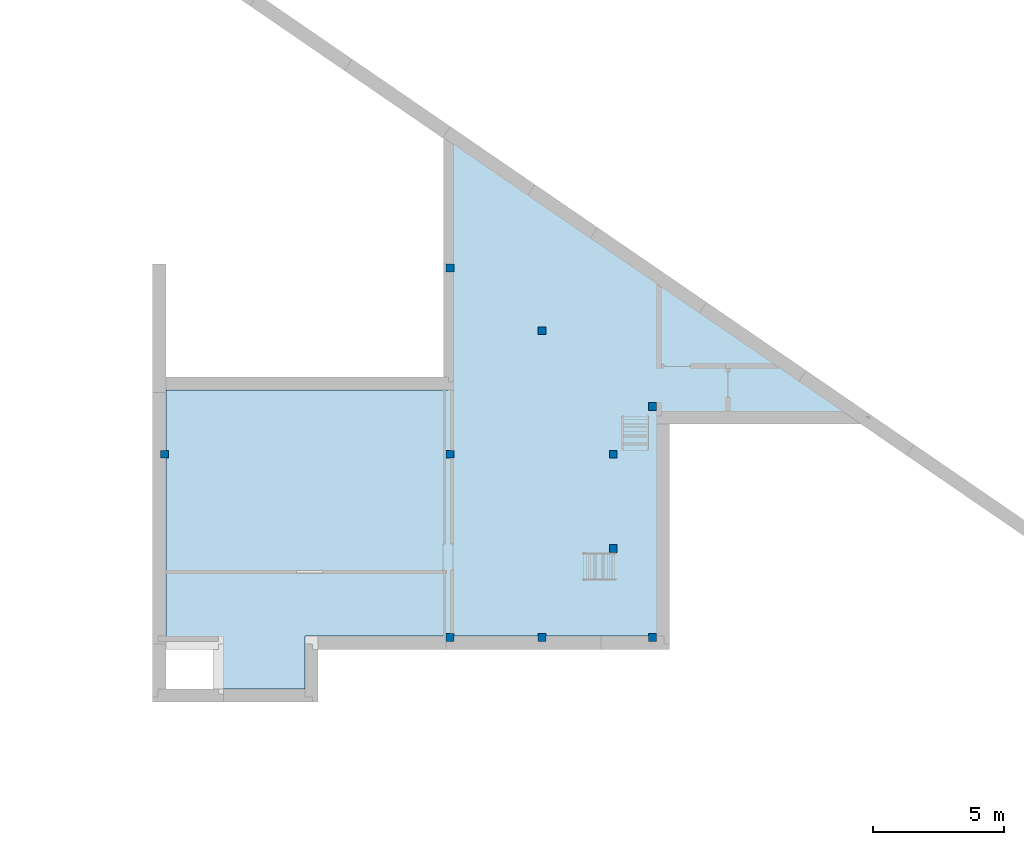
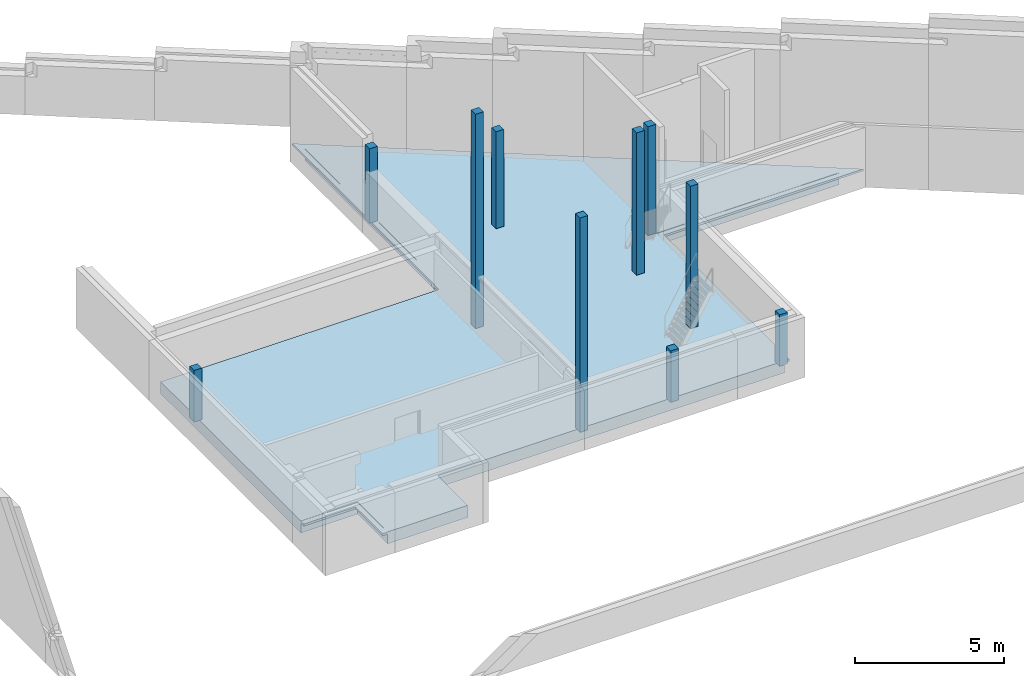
# One storey, part 1 of 8: 10 columns, 1 slab.
"""IFC2X3 building model written with IfcOpenShell, lengths in millimetres."""

from ifc_helpers import new_model, entity, si_unit, converted_unit, derived_unit, money_unit, direction, frame, origin_with_axes, place, context, subcontext, project, spatial, faceted_brep, material, material_list, type_object, element, save


model = new_model("IFC2X3")

# Units and contexts
model_context = context("Model", 3, precision=0.01, world=origin_with_axes(), true_north=direction((0.0, 1.0)))
body_context = subcontext(model_context, "Body", "Model", "MODEL_VIEW")
ifc_project = project(units=[si_unit("LENGTHUNIT", "METRE", prefix="MILLI"), si_unit("AREAUNIT", "SQUARE_METRE"), si_unit("VOLUMEUNIT", "CUBIC_METRE"), converted_unit("PLANEANGLEUNIT", "DEGREE", entity("IfcPlaneAngleMeasure", 0.0174532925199), si_unit("PLANEANGLEUNIT", "RADIAN"), dimensions=[0, 0, 0, 0, 0, 0, 0]), si_unit("SOLIDANGLEUNIT", "STERADIAN"), money_unit("EUR"), converted_unit("TIMEUNIT", "Year", entity("IfcTimeMeasure", 31556926.0), si_unit("TIMEUNIT", "SECOND"), dimensions=[0, 0, 1, 0, 0, 0, 0]), si_unit("MASSUNIT", "GRAM", prefix="KILO"), si_unit("THERMODYNAMICTEMPERATUREUNIT", "DEGREE_CELSIUS"), si_unit("LUMINOUSINTENSITYUNIT", "LUMEN"), si_unit("ENERGYUNIT", "JOULE", prefix="MEGA"), derived_unit("THERMALCONDUCTANCEUNIT", [(si_unit("POWERUNIT", "WATT"), 1), (si_unit("LENGTHUNIT", "METRE"), -1), (si_unit("THERMODYNAMICTEMPERATUREUNIT", "KELVIN"), -1)]), derived_unit("SPECIFICHEATCAPACITYUNIT", [(si_unit("ENERGYUNIT", "JOULE"), 1), (si_unit("MASSUNIT", "GRAM", prefix="KILO"), -1), (si_unit("THERMODYNAMICTEMPERATUREUNIT", "KELVIN"), -1)]), derived_unit("MASSDENSITYUNIT", [(si_unit("MASSUNIT", "GRAM", prefix="KILO"), 1), (si_unit("VOLUMEUNIT", "CUBIC_METRE"), -1)])], contexts=[model_context])

# Site, building, storey
site_placement = place(None, origin_with_axes())
site = spatial("IfcSite", under=ifc_project, at=site_placement, Name="L.Koidula tn 11b", CompositionType="ELEMENT")
building_placement = place(site_placement, origin_with_axes())
building = spatial("IfcBuilding", under=site, at=building_placement, Name="Rakvere Riigigümnaasium", CompositionType="ELEMENT")
storey_placement = place(building_placement, frame((0.0, 0.0, -2100.0), z_axis=(0.0, 0.0, 1.0), x_axis=(1.0, 0.0, 0.0)))
storey = spatial("IfcBuildingStorey", under=building, at=storey_placement, Name="1.korrus_tehniline -2,10", CompositionType="ELEMENT", Elevation=-2100.0)

# Columns
ifc_material_1 = material(Name="Betoon post")
column_type = type_object("IfcColumnType", Name="Betoon post 300 x 300", PredefinedType="COLUMN")
for number, where, z_axis, x_axis, name in (
    (1, (61540.020931, 17260.4325141, 0.0), (0.0, 0.0, 1.0), (1.0, 0.0, 0.0), "Post"),
    (2, (65749.9980025, 17260.4555225, 0.0), (0.0, 0.0, 1.0), (1.0, 0.0, 0.0), "Post"),
):
    element("IfcColumn", number, at=place(storey_placement, frame(where, z_axis=z_axis, x_axis=x_axis)), inside=storey, type_object=column_type, material=ifc_material_1, Name=name, ObjectType="COLUMN", context=body_context, shape_type="Brep", body=[
        faceted_brep([(-150.0, -150.0, 2100.0), (-150.0, -150.0, 0.0), (150.0, -150.0, 0.0), (150.0, -150.0, 2100.0), (-150.0, 150.0, 2100.0), (-150.0, 150.0, 0.0), (150.0, 150.0, 0.0), (150.0, 150.0, 2100.0)], [[[0, 1, 2, 3]], [[4, 5, 1, 0]], [[2, 1, 5, 6]], [[3, 2, 6, 7]], [[4, 0, 3, 7]], [[7, 6, 5, 4]]]),
    ])
column_1_placement = place(storey_placement, frame((64260.020931, 20650.4631607, 0.0), z_axis=(0.0, 0.0, 1.0), x_axis=(1.0, 0.0, 0.0)))
element("IfcColumn", 3, at=column_1_placement, inside=storey, type_object=column_type, material=ifc_material_1, Name="Post", ObjectType="COLUMN", context=body_context, shape_type="Brep", body=[
    faceted_brep([(-150.0, -150.0, 5820.0), (-150.0, -150.0, 0.0), (150.0, -150.0, 0.0), (150.0, -150.0, 5820.0), (-150.0, 150.0, 5820.0), (-150.0, 150.0, 0.0), (150.0, 150.0, 0.0), (150.0, 150.0, 5820.0)], [[[0, 1, 2, 3]], [[4, 5, 1, 0]], [[2, 1, 5, 6]], [[3, 2, 6, 7]], [[4, 0, 3, 7]], [[7, 6, 5, 4]]]),
])
column_2_placement = place(storey_placement, frame((58030.0348819, 31350.4554945, 0.0), z_axis=(0.0, 0.0, 1.0), x_axis=(1.0, 0.0, 0.0)))
element("IfcColumn", 4, at=column_2_placement, inside=storey, type_object=column_type, material=ifc_material_1, Name="Post", ObjectType="COLUMN", context=body_context, shape_type="Brep", body=[
    faceted_brep([(150.0, -150.0, 3049.82181515), (-150.0, -150.0, 3049.82181515), (-150.0, -150.0, 0.0), (150.0, -150.0, 0.0), (150.0, 150.0, 3049.82181515), (-150.0, 150.0, 3049.82181515), (-150.0, 150.0, 0.0), (150.0, 150.0, 0.0)], [[[0, 1, 2, 3]], [[4, 5, 1, 0]], [[1, 5, 6, 2]], [[7, 3, 2, 6]], [[4, 0, 3, 7]], [[5, 4, 7, 6]]]),
])
column_3_placement = place(storey_placement, frame((58030.0348819, 24250.4555472, 0.0), z_axis=(0.0, 0.0, 1.0), x_axis=(1.0, 0.0, 0.0)))
element("IfcColumn", 5, at=column_3_placement, inside=storey, type_object=column_type, material=ifc_material_1, Name="Post", ObjectType="COLUMN", context=body_context, shape_type="Brep", body=[
    faceted_brep([(-150.0, -150.0, 8765.0), (-150.0, -150.0, 0.0), (150.0, -150.0, 0.0), (150.0, -150.0, 8765.0), (-150.0, 150.0, 8765.0), (-150.0, 150.0, 0.0), (150.0, 150.0, 0.0), (150.0, 150.0, 8765.0)], [[[0, 1, 2, 3]], [[4, 5, 1, 0]], [[2, 1, 5, 6]], [[3, 2, 6, 7]], [[4, 0, 3, 7]], [[7, 6, 5, 4]]]),
])
column_4_placement = place(storey_placement, frame((47150.0013931, 24250.4555472, 0.0), z_axis=(0.0, 0.0, 1.0), x_axis=(1.0, 0.0, 0.0)))
element("IfcColumn", 6, at=column_4_placement, inside=storey, type_object=column_type, material=ifc_material_1, Name="Post", ObjectType="COLUMN", context=body_context, shape_type="Brep", body=[
    faceted_brep([(-150.0, -150.0, 2100.0), (-150.0, -150.0, 0.0), (150.0, -150.0, 0.0), (150.0, -150.0, 2100.0), (-150.0, 150.0, 2100.0), (-150.0, 150.0, 0.0), (150.0, 150.0, 0.0), (150.0, 150.0, 2100.0)], [[[0, 1, 2, 3]], [[4, 5, 1, 0]], [[2, 1, 5, 6]], [[3, 2, 6, 7]], [[4, 0, 3, 7]], [[7, 6, 5, 4]]]),
])
column_5_placement = place(storey_placement, frame((58030.0348819, 17260.4555095, 0.0), z_axis=(0.0, 0.0, 1.0), x_axis=(1.0, 0.0, 0.0)))
element("IfcColumn", 7, at=column_5_placement, inside=storey, type_object=column_type, material=ifc_material_1, Name="Post", ObjectType="COLUMN", context=body_context, shape_type="Brep", body=[
    faceted_brep([(-150.0, -150.0, 8765.0), (-150.0, -150.0, 0.0), (150.0, -150.0, 0.0), (150.0, -150.0, 8765.0), (-150.0, 150.0, 8765.0), (-150.0, 150.0, 0.0), (150.0, 150.0, 0.0), (150.0, 150.0, 8765.0)], [[[0, 1, 2, 3]], [[4, 5, 1, 0]], [[2, 1, 5, 6]], [[3, 2, 6, 7]], [[4, 0, 3, 7]], [[7, 6, 5, 4]]]),
])
column_6_placement = place(storey_placement, frame((61540.020931, 28960.0508919, 0.0), z_axis=(0.0, 0.0, 1.0), x_axis=(1.0, 0.0, 0.0)))
element("IfcColumn", 8, at=column_6_placement, inside=storey, type_object=column_type, material=ifc_material_1, Name="Post", ObjectType="COLUMN", context=body_context, shape_type="Brep", body=[
    faceted_brep([(-150.0, -150.0, 3960.0), (-150.0, -150.0, 0.0), (150.0, -150.0, 0.0), (150.0, -150.0, 3960.0), (-150.0, 150.0, 3960.0), (-150.0, 150.0, 0.0), (150.0, 150.0, 0.0), (150.0, 150.0, 3960.0)], [[[0, 1, 2, 3]], [[4, 5, 1, 0]], [[2, 1, 5, 6]], [[3, 2, 6, 7]], [[4, 0, 3, 7]], [[7, 6, 5, 4]]]),
])
column_7_placement = place(storey_placement, frame((65749.9980729, 26070.8711802, 0.0), z_axis=(0.0, 0.0, 1.0), x_axis=(1.0, 0.0, 0.0)))
element("IfcColumn", 9, at=column_7_placement, inside=storey, type_object=column_type, material=ifc_material_1, Name="Post", ObjectType="COLUMN", context=body_context, shape_type="Brep", body=[
    faceted_brep([(-150.0, -150.0, 4445.0), (-150.0, -150.0, 0.0), (150.0, -150.0, 0.0), (150.0, -150.0, 4445.0), (-150.0, 150.0, 4445.0), (-150.0, 150.0, 0.0), (150.0, 150.0, 0.0), (150.0, 150.0, 4445.0)], [[[0, 1, 2, 3]], [[4, 5, 1, 0]], [[2, 1, 5, 6]], [[3, 2, 6, 7]], [[4, 0, 3, 7]], [[7, 6, 5, 4]]]),
])
column_8_placement = place(storey_placement, frame((64260.020931, 24250.4555472, 0.0), z_axis=(0.0, 0.0, 1.0), x_axis=(1.0, 0.0, 0.0)))
element("IfcColumn", 10, at=column_8_placement, inside=storey, type_object=column_type, material=ifc_material_1, Name="Post", ObjectType="COLUMN", context=body_context, shape_type="Brep", body=[
    faceted_brep([(-150.0, -150.0, 5820.0), (-150.0, -150.0, 0.0), (150.0, -150.0, 0.0), (150.0, -150.0, 5820.0), (-150.0, 150.0, 5820.0), (-150.0, 150.0, 0.0), (150.0, 150.0, 0.0), (150.0, 150.0, 5820.0)], [[[0, 1, 2, 3]], [[4, 5, 1, 0]], [[2, 1, 5, 6]], [[3, 2, 6, 7]], [[4, 0, 3, 7]], [[7, 6, 5, 4]]]),
])

# Slab
ifc_material_2 = material(Name="Polükarbamiid-2")
ifc_material_3 = material(Name="Betoon - pealevalu")
ifc_material_4 = material(Name="Betoon element / plaat")
ifc_material_5 = material(Name="Soojustus - EPS")
ifc_material_6 = material(Name="Killustik")
ifc_material_list = material_list([ifc_material_2, ifc_material_3, ifc_material_4, ifc_material_5, ifc_material_5, ifc_material_6])
slab_type = type_object("IfcSlabType", Name="PP-01-2 490", PredefinedType="NOTDEFINED")
slab_placement = place(storey_placement, frame((47199.9999938, 19460.4397072, 0.0), z_axis=(0.0, 0.0, 1.0), x_axis=(1.0, 0.0, 0.0)))
element("IfcSlab", 11, at=slab_placement, inside=storey, type_object=slab_type, material=ifc_material_list, Name="Põrand pinnasel", PredefinedType="NOTDEFINED", context=body_context, shape_type="Brep", body=[
    faceted_brep([(2199.99999991, -2149.98419495, -5.0), (2199.99999991, -2449.98419495, -5.0), (2199.99999991, -2449.98419495, 0.0), (2199.99999991, -2149.98419495, 0.0), (5299.99999991, -4159.961177, -5.0), (2199.99999991, -4159.96117626, -5.0), (0.0, -2149.98419495, -5.0), (0.0, 7240.01583998, -5.0), (10770.0348163, 7240.01583998, -5.0), (10980.0348163, 7240.01583998, -5.0), (10980.0348163, 16587.2577421, -5.0), (25776.7943697, 6438.49746742, -5.0), (18699.9980791, 6438.49746742, -5.0), (18699.9980791, -2149.9841847, -5.0), (5299.99999991, -2149.9841847, -5.0), (2199.99999991, -4159.96117626, 0.0), (5299.99999991, -4159.961177, 0.0), (5299.99999991, -2149.9841847, 0.0), (18699.9980791, -2149.9841847, 0.0), (18699.9980791, 6240.49746954, 0.0), (18699.9980791, 6438.49746742, 0.0), (25776.7943697, 6438.49746742, 0.0), (10980.0348163, 16587.2577421, 0.0), (10980.0348163, 7240.01583998, 0.0), (10770.0348163, 7240.01583998, 0.0), (0.0, 7240.01583998, 0.0), (0.0, -2149.98419495, 0.0)], [[[0, 1, 2, 3]], [[4, 5, 1, 0, 6, 7, 8, 9, 10, 11, 12, 13, 14]], [[5, 15, 2, 1]], [[3, 2, 15, 16, 17, 18, 19, 20, 21, 22, 23, 24, 25, 26]], [[6, 0, 3, 26]], [[16, 15, 5, 4]], [[25, 7, 6, 26]], [[7, 25, 24, 8]], [[9, 8, 24, 23]], [[9, 23, 22, 10]], [[21, 11, 10, 22]], [[20, 12, 11, 21]], [[20, 19, 18, 13, 12]], [[17, 14, 13, 18]], [[14, 17, 16, 4]]]),
    faceted_brep([(10780.0348163, 7540.01583998, -5.0), (10780.0348163, 7740.01583998, -5.0), (10770.0348163, 7740.01583998, -5.0), (10770.0348163, 7540.01583998, -5.0), (10780.0348163, 7740.01583998, -10.0), (10780.0348163, 7540.01583998, -10.0), (10770.0348163, 7740.01583998, -10.0), (10770.0348163, 7540.01583998, -10.0)], [[[0, 1, 2, 3]], [[4, 1, 0, 5]], [[1, 4, 6, 2]], [[3, 2, 6, 7]], [[5, 0, 3, 7]], [[4, 5, 7, 6]]]),
    faceted_brep([(2199.99999991, -2449.98419495, -10.0), (2199.99999991, -2449.98419495, -5.0), (2199.99999991, -2149.98419495, -5.0), (2199.99999991, -2149.98419495, -10.0), (2199.99999991, -4159.96117626, -5.0), (2199.99999991, -4159.96117626, -10.0), (5299.99999991, -4159.961177, -5.0), (5299.99999991, -2149.9841847, -5.0), (18699.9980791, -2149.9841847, -5.0), (18699.9980791, 6438.49746742, -5.0), (25776.7943697, 6438.49746742, -5.0), (10980.0348163, 16587.2577421, -5.0), (10980.0348163, 7240.01583998, -5.0), (10770.0348163, 7240.01583998, -5.0), (0.0, 7240.01583998, -5.0), (0.0, -2149.98419495, -5.0), (0.0, -2149.98419495, -10.0), (0.0, 7240.01583998, -10.0), (10770.0348163, 7240.01583998, -10.0), (10980.0348163, 7240.01583998, -10.0), (10980.0348163, 16587.2577421, -10.0), (25776.7943697, 6438.49746742, -10.0), (18699.9980791, 6438.49746742, -10.0), (18699.9980791, -2149.9841847, -10.0), (5299.99999991, -2149.9841847, -10.0), (5299.99999991, -4159.961177, -10.0)], [[[0, 1, 2, 3]], [[4, 1, 0, 5]], [[1, 4, 6, 7, 8, 9, 10, 11, 12, 13, 14, 15, 2]], [[2, 15, 16, 3]], [[5, 0, 3, 16, 17, 18, 19, 20, 21, 22, 23, 24, 25]], [[4, 5, 25, 6]], [[25, 24, 7, 6]], [[24, 23, 8, 7]], [[9, 8, 23, 22]], [[22, 21, 10, 9]], [[10, 21, 20, 11]], [[11, 20, 19, 12]], [[12, 19, 18, 13]], [[18, 17, 14, 13]], [[16, 15, 14, 17]]]),
    faceted_brep([(10780.0348163, 16724.4332332, -90.0), (10780.0348163, 7740.01583998, -90.0), (10780.0348163, 7740.01583998, -10.0), (10780.0348163, 16724.4332332, -10.0), (10770.0348163, 16731.2920078, -90.0), (10770.0348163, 17095.0713778, -90.0), (26598.7719762, 6238.49746742, -90.0), (18899.9981033, 6238.49746742, -90.0), (18899.9981033, -2149.9841847, -90.0), (5299.99999991, -2149.9841847, -90.0), (5299.99999991, -4159.961177, -90.0), (1999.99999991, -4159.961177, -90.0), (1999.99999991, -2349.98419495, -90.0), (0.0, -2349.98419495, -90.0), (0.0, 7240.01583998, -90.0), (10770.0348163, 7240.01583998, -90.0), (10770.0348163, 7740.01583998, -90.0), (10770.0348163, 7740.01583998, -10.0), (10770.0348163, 7240.01583998, -10.0), (0.0, 7240.01583998, -10.0), (0.0, -2349.98419495, -10.0), (1999.99999991, -2349.98419495, -10.0), (1999.99999991, -4159.961177, -10.0), (5299.99999991, -4159.961177, -10.0), (5299.99999991, -2149.9841847, -10.0), (18899.9981033, -2149.9841847, -10.0), (18899.9981033, 6238.49746742, -10.0), (26598.7719762, 6238.49746742, -10.0), (10770.0348163, 17095.0713778, -10.0), (10770.0348163, 16731.2920078, -10.0)], [[[0, 1, 2, 3]], [[1, 0, 4, 5, 6, 7, 8, 9, 10, 11, 12, 13, 14, 15, 16]], [[17, 2, 1, 16]], [[2, 17, 18, 19, 20, 21, 22, 23, 24, 25, 26, 27, 28, 29, 3]], [[3, 29, 4, 0]], [[4, 29, 28, 5]], [[6, 5, 28, 27]], [[7, 6, 27, 26]], [[8, 7, 26, 25]], [[9, 8, 25, 24]], [[10, 9, 24, 23]], [[11, 10, 23, 22]], [[12, 11, 22, 21]], [[13, 12, 21, 20]], [[14, 13, 20, 19]], [[15, 14, 19, 18]], [[17, 16, 15, 18]]]),
    faceted_brep([(10780.0348163, 7540.01583998, -90.0), (10780.0348163, 7740.01583998, -90.0), (10770.0348163, 7740.01583998, -90.0), (10770.0348163, 7540.01583998, -90.0), (10780.0348163, 7740.01583998, -190.0), (10780.0348163, 7540.01583998, -190.0), (10770.0348163, 7740.01583998, -190.0), (10770.0348163, 7540.01583998, -190.0)], [[[0, 1, 2, 3]], [[4, 1, 0, 5]], [[1, 4, 6, 2]], [[3, 2, 6, 7]], [[5, 0, 3, 7]], [[4, 5, 7, 6]]]),
    faceted_brep([(2199.99999991, -2449.98419495, -190.0), (2199.99999991, -2449.98419495, -90.0), (2199.99999991, -2149.98419495, -90.0), (2199.99999991, -2149.98419495, -190.0), (2199.99999991, -4159.96117626, -90.0), (2199.99999991, -4159.96117626, -190.0), (5299.99999991, -4159.961177, -90.0), (5299.99999991, -2149.9841847, -90.0), (18699.9980791, -2149.9841847, -90.0), (18699.9980791, 6438.49746742, -90.0), (25776.7943697, 6438.49746742, -90.0), (10980.0348163, 16587.2577421, -90.0), (10980.0348163, 7240.01583998, -90.0), (10770.0348163, 7240.01583998, -90.0), (0.0, 7240.01583998, -90.0), (0.0, -2149.98419495, -90.0), (0.0, -2149.98419495, -190.0), (0.0, 7240.01583998, -190.0), (10770.0348163, 7240.01583998, -190.0), (10980.0348163, 7240.01583998, -190.0), (10980.0348163, 16587.2577421, -190.0), (25776.7943697, 6438.49746742, -190.0), (18699.9980791, 6438.49746742, -190.0), (18699.9980791, -2149.9841847, -190.0), (5299.99999991, -2149.9841847, -190.0), (5299.99999991, -4159.961177, -190.0)], [[[0, 1, 2, 3]], [[4, 1, 0, 5]], [[1, 4, 6, 7, 8, 9, 10, 11, 12, 13, 14, 15, 2]], [[2, 15, 16, 3]], [[5, 0, 3, 16, 17, 18, 19, 20, 21, 22, 23, 24, 25]], [[4, 5, 25, 6]], [[25, 24, 7, 6]], [[24, 23, 8, 7]], [[9, 8, 23, 22]], [[22, 21, 10, 9]], [[10, 21, 20, 11]], [[11, 20, 19, 12]], [[12, 19, 18, 13]], [[18, 17, 14, 13]], [[16, 15, 14, 17]]]),
    faceted_brep([(2199.99999991, -2449.98419495, -290.0), (2199.99999991, -2449.98419495, -190.0), (2199.99999991, -2149.98419495, -190.0), (2199.99999991, -2149.98419495, -290.0), (2199.99999991, -4159.96117626, -190.0), (2199.99999991, -4159.96117626, -290.0), (5299.99999991, -4159.961177, -190.0), (5299.99999991, -2149.9841847, -190.0), (18699.9980791, -2149.9841847, -190.0), (18699.9980791, 6438.49746742, -190.0), (25776.7943697, 6438.49746742, -190.0), (10980.0348163, 16587.2577421, -190.0), (10980.0348163, 7240.01583998, -190.0), (10770.0348163, 7240.01583998, -190.0), (0.0, 7240.01583998, -190.0), (0.0, -2149.98419495, -190.0), (0.0, -2149.98419495, -290.0), (0.0, 7240.01583998, -290.0), (10770.0348163, 7240.01583998, -290.0), (10980.0348163, 7240.01583998, -290.0), (10980.0348163, 16587.2577421, -290.0), (25776.7943697, 6438.49746742, -290.0), (18699.9980791, 6438.49746742, -290.0), (18699.9980791, -2149.9841847, -290.0), (5299.99999991, -2149.9841847, -290.0), (5299.99999991, -4159.961177, -290.0)], [[[0, 1, 2, 3]], [[4, 1, 0, 5]], [[1, 4, 6, 7, 8, 9, 10, 11, 12, 13, 14, 15, 2]], [[3, 2, 15, 16]], [[5, 0, 3, 16, 17, 18, 19, 20, 21, 22, 23, 24, 25]], [[4, 5, 25, 6]], [[7, 6, 25, 24]], [[24, 23, 8, 7]], [[9, 8, 23, 22]], [[9, 22, 21, 10]], [[10, 21, 20, 11]], [[12, 11, 20, 19]], [[18, 13, 12, 19]], [[14, 13, 18, 17]], [[17, 16, 15, 14]]]),
    faceted_brep([(2199.99999991, -2449.98419495, -490.0), (2199.99999991, -2449.98419495, -290.0), (2199.99999991, -2149.98419495, -290.0), (2199.99999991, -2149.98419495, -490.0), (2199.99999991, -4159.96117626, -290.0), (2199.99999991, -4159.96117626, -490.0), (5299.99999991, -4159.961177, -290.0), (5299.99999991, -2149.9841847, -290.0), (18699.9980791, -2149.9841847, -290.0), (18699.9980791, 6438.49746742, -290.0), (25776.7943697, 6438.49746742, -290.0), (10980.0348163, 16587.2577421, -290.0), (10980.0348163, 7240.01583998, -290.0), (10770.0348163, 7240.01583998, -290.0), (0.0, 7240.01583998, -290.0), (0.0, -2149.98419495, -290.0), (0.0, -2149.98419495, -490.0), (0.0, 7240.01583998, -490.0), (10770.0348163, 7240.01583998, -490.0), (10980.0348163, 7240.01583998, -490.0), (10980.0348163, 16587.2577421, -490.0), (25776.7943697, 6438.49746742, -490.0), (18699.9980791, 6438.49746742, -490.0), (18699.9980791, -2149.9841847, -490.0), (5299.99999991, -2149.9841847, -490.0), (5299.99999991, -4159.961177, -490.0)], [[[0, 1, 2, 3]], [[4, 1, 0, 5]], [[1, 4, 6, 7, 8, 9, 10, 11, 12, 13, 14, 15, 2]], [[3, 2, 15, 16]], [[5, 0, 3, 16, 17, 18, 19, 20, 21, 22, 23, 24, 25]], [[4, 5, 25, 6]], [[24, 7, 6, 25]], [[24, 23, 8, 7]], [[9, 8, 23, 22]], [[9, 22, 21, 10]], [[10, 21, 20, 11]], [[12, 11, 20, 19]], [[18, 13, 12, 19]], [[14, 13, 18, 17]], [[17, 16, 15, 14]]]),
])

save(model, "model.ifc")
